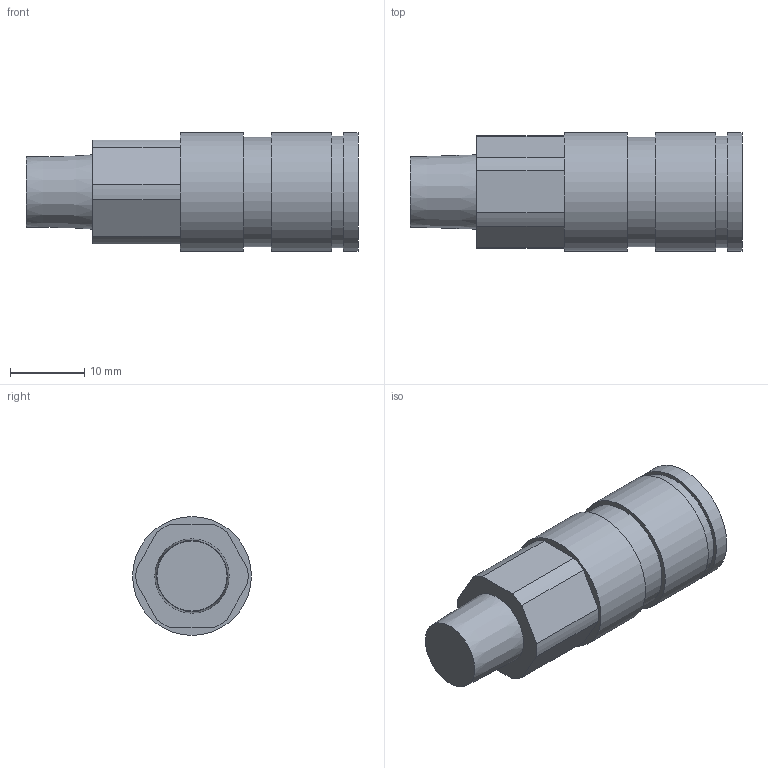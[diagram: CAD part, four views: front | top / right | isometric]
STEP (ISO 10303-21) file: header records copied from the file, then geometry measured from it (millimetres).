
FILE_DESCRIPTION((''),'2;1');
FILE_NAME('Z:\客先\あ行\アオイ\99_その他\3D_DATA\CPR_Series\10CPR-SSV-R-C\STEP\203\CPR-SSV-R1-8-C.ipt.stp','2008-07-03T14:14:03',(''),(''),'Autodesk Inventor 2009','Autodesk Inventor 2009','');
FILE_SCHEMA(('CONFIG_CONTROL_DESIGN'));
Length unit declared in the file: millimetre
Products named in the file (1): CPR-SSV-R1-8-C
Bounding box: 44.7 x 16 x 16 mm (x, y, z)
Volume: 6153.9 mm3; surface area: 3008.5 mm2
Topology: 1 solids, 1 shells, 28 faces, 57 edges, 38 vertices
Faces by surface type: plane 15, cylinder 12, cone 1
Full cylindrical faces by diameter (mm): 9.1 x1, 14.7 x1, 15 x1, 16 x3
Entity records: 729 total; most frequent: DIRECTION 134, CARTESIAN_POINT 117, ORIENTED_EDGE 100, AXIS2_PLACEMENT_3D 55, EDGE_CURVE 50, EDGE_LOOP 42, VERTEX_POINT 38, FACE_OUTER_BOUND 28
